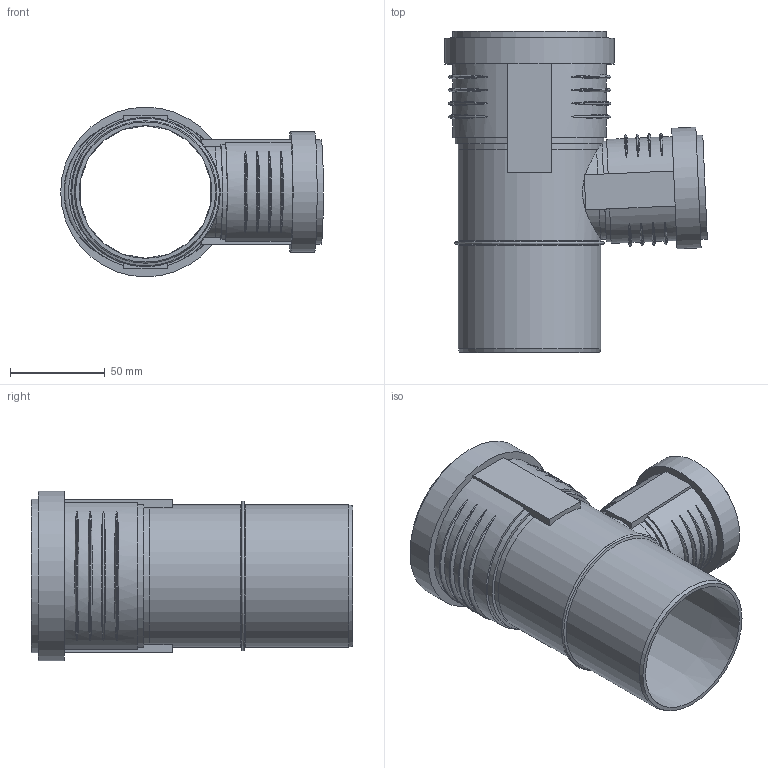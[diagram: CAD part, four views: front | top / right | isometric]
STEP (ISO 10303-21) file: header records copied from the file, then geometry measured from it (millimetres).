
FILE_DESCRIPTION(/* description */ (''),/* implementation_level */ '2;1');
FILE_NAME(/* name */ 'Z:\Geberit\Export\NewStep\390348.stp',/* time_stamp */ '2014-04-02T08:11:59+02:00',/* author */ ('ML'),/* organization */ (''),/* preprocessor_version */ 'ST-DEVELOPER v15.2',/* originating_system */ 'Autodesk Inventor 2014',/* authorisation */ '');
FILE_SCHEMA (('AUTOMOTIVE_DESIGN { 1 0 10303 214 3 1 1 }'));
Length unit declared in the file: millimetre
Products named in the file (4): 861354; 861401; 861402; 390348
Bounding box: 138.62 x 169.5 x 89.6 mm (x, y, z)
Volume: 138843 mm3; surface area: 117468.4 mm2
Topology: 3 solids, 3 shells, 124 faces, 304 edges, 212 vertices
Faces by surface type: torus 50, plane 37, cylinder 30, cone 7
Full cylindrical faces by diameter (mm): 46.15 x2, 50.15 x2, 51 x2, 55 x1, 59.7 x1, 63.7 x1, 70.2 x1, 75.2 x3, 76.2 x2, 81.2 x1, 84.6 x1, 89.6 x1
Entity records: 5047 total; most frequent: CARTESIAN_POINT 2139, ORIENTED_EDGE 534, DIRECTION 528, EDGE_CURVE 267, AXIS2_PLACEMENT_3D 228, VERTEX_POINT 203, EDGE_LOOP 186, STYLED_ITEM 124
